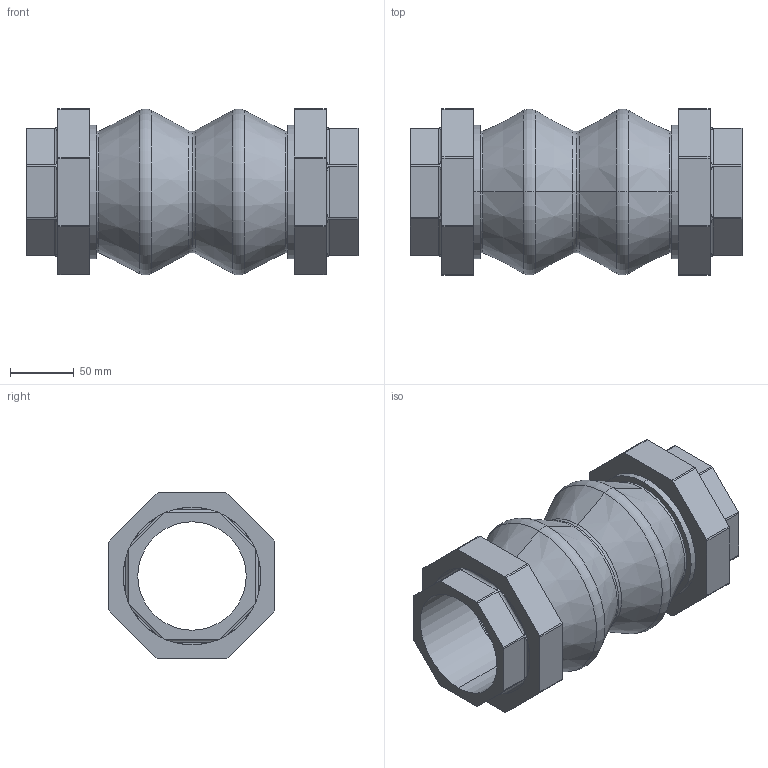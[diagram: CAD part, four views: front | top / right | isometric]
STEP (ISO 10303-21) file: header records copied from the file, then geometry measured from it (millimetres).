
FILE_DESCRIPTION (( 'STEP AP203' ), '1' );
FILE_NAME ('T8_DN080.STEP', '2012-10-31T13:30:11', ( 'luca.saino' ), ( 'Hewlett-Packard Company' ), 'SwSTEP 2.0', 'SolidWorks 2012', '' );
FILE_SCHEMA (( 'CONFIG_CONTROL_DESIGN' ));
Length unit declared in the file: millimetre
Products named in the file (1): T8_DN080
Bounding box: 260 x 130 x 130 mm (x, y, z)
Volume: 859906.2 mm3; surface area: 213145.3 mm2
Topology: 1 solids, 1 shells, 140 faces, 356 edges, 224 vertices
Faces by surface type: plane 56, cylinder 48, torus 20, cone 16
Entity records: 4775 total; most frequent: CARTESIAN_POINT 1251, DIRECTION 754, ORIENTED_EDGE 712, EDGE_CURVE 356, AXIS2_PLACEMENT_3D 289, VERTEX_POINT 224, VECTOR 176, LINE 176
